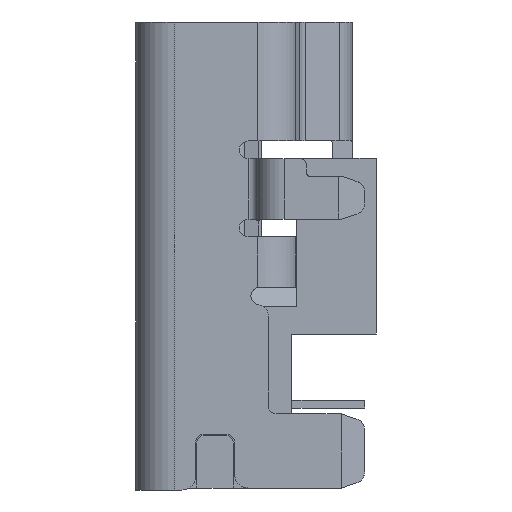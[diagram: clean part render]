
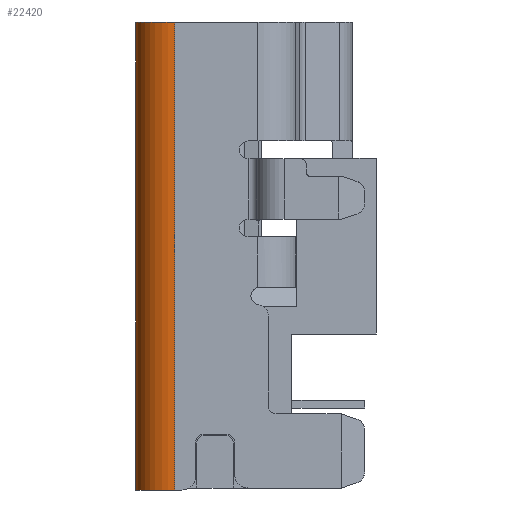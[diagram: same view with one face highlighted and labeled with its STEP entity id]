
A CAD part, left-side view. The second image highlights one B-rep face of the part: STEP entity #22420.
In plain terms, the highlighted cylindrical face has radius 1 mm (diameter 2 mm), a partial arc.
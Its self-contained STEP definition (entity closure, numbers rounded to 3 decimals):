
#1595 = DIRECTION ( 'NONE',  ( -1., 0., 0. ) ) ;
#2173 = VERTEX_POINT ( 'NONE', #45902 ) ;
#3409 = VECTOR ( 'NONE', #46235, 1000. ) ;
#3545 = DIRECTION ( 'NONE',  ( 0., 0., 1. ) ) ;
#5051 = EDGE_CURVE ( 'NONE', #54569, #15078, #13331, .T. ) ;
#9126 = EDGE_CURVE ( 'NONE', #49548, #54569, #53945, .T. ) ;
#9142 = CARTESIAN_POINT ( 'NONE',  ( -6.5, 2.775, 12. ) ) ;
#9293 = FACE_OUTER_BOUND ( 'NONE', #51046, .T. ) ;
#13331 = CIRCLE ( 'NONE', #45310, 1. ) ;
#15078 = VERTEX_POINT ( 'NONE', #9142 ) ;
#18443 = CYLINDRICAL_SURFACE ( 'NONE', #41114, 1. ) ;
#18957 = EDGE_CURVE ( 'NONE', #2173, #15078, #40625, .T. ) ;
#19144 = CARTESIAN_POINT ( 'NONE',  ( -6.5, 2.775, 0. ) ) ;
#22420 = ADVANCED_FACE ( 'NONE', ( #9293 ), #18443, .T. ) ;
#23345 = CARTESIAN_POINT ( 'NONE',  ( -6.5, 1.775, 12. ) ) ;
#24172 = DIRECTION ( 'NONE',  ( 0., 0., 1. ) ) ;
#26069 = ORIENTED_EDGE ( 'NONE', *, *, #18957, .F. ) ;
#26744 = DIRECTION ( 'NONE',  ( 0., 0., -1. ) ) ;
#28535 = VECTOR ( 'NONE', #24172, 1000. ) ;
#32210 = CARTESIAN_POINT ( 'NONE',  ( -7.5, 1.775, 0. ) ) ;
#33291 = EDGE_CURVE ( 'NONE', #2173, #49548, #53149, .T. ) ;
#36915 = ORIENTED_EDGE ( 'NONE', *, *, #9126, .T. ) ;
#37103 = CARTESIAN_POINT ( 'NONE',  ( -7.5, 1.775, 0. ) ) ;
#38459 = CARTESIAN_POINT ( 'NONE',  ( -6.5, 1.775, 0. ) ) ;
#40203 = ORIENTED_EDGE ( 'NONE', *, *, #5051, .T. ) ;
#40625 = LINE ( 'NONE', #19144, #3409 ) ;
#40806 = DIRECTION ( 'NONE',  ( 0., 0., -1. ) ) ;
#41050 = CARTESIAN_POINT ( 'NONE',  ( -7.5, 1.775, 12. ) ) ;
#41114 = AXIS2_PLACEMENT_3D ( 'NONE', #44483, #26744, #53351 ) ;
#42160 = AXIS2_PLACEMENT_3D ( 'NONE', #38459, #3545, #43038 ) ;
#43038 = DIRECTION ( 'NONE',  ( 0., 1., 0. ) ) ;
#44483 = CARTESIAN_POINT ( 'NONE',  ( -6.5, 1.775, 12.24 ) ) ;
#45310 = AXIS2_PLACEMENT_3D ( 'NONE', #23345, #40806, #1595 ) ;
#45902 = CARTESIAN_POINT ( 'NONE',  ( -6.5, 2.775, 0. ) ) ;
#46235 = DIRECTION ( 'NONE',  ( 0., 0., 1. ) ) ;
#49548 = VERTEX_POINT ( 'NONE', #37103 ) ;
#50678 = ORIENTED_EDGE ( 'NONE', *, *, #33291, .T. ) ;
#51046 = EDGE_LOOP ( 'NONE', ( #36915, #40203, #26069, #50678 ) ) ;
#53149 = CIRCLE ( 'NONE', #42160, 1. ) ;
#53351 = DIRECTION ( 'NONE',  ( -1., 0., 0. ) ) ;
#53945 = LINE ( 'NONE', #32210, #28535 ) ;
#54569 = VERTEX_POINT ( 'NONE', #41050 ) ;
